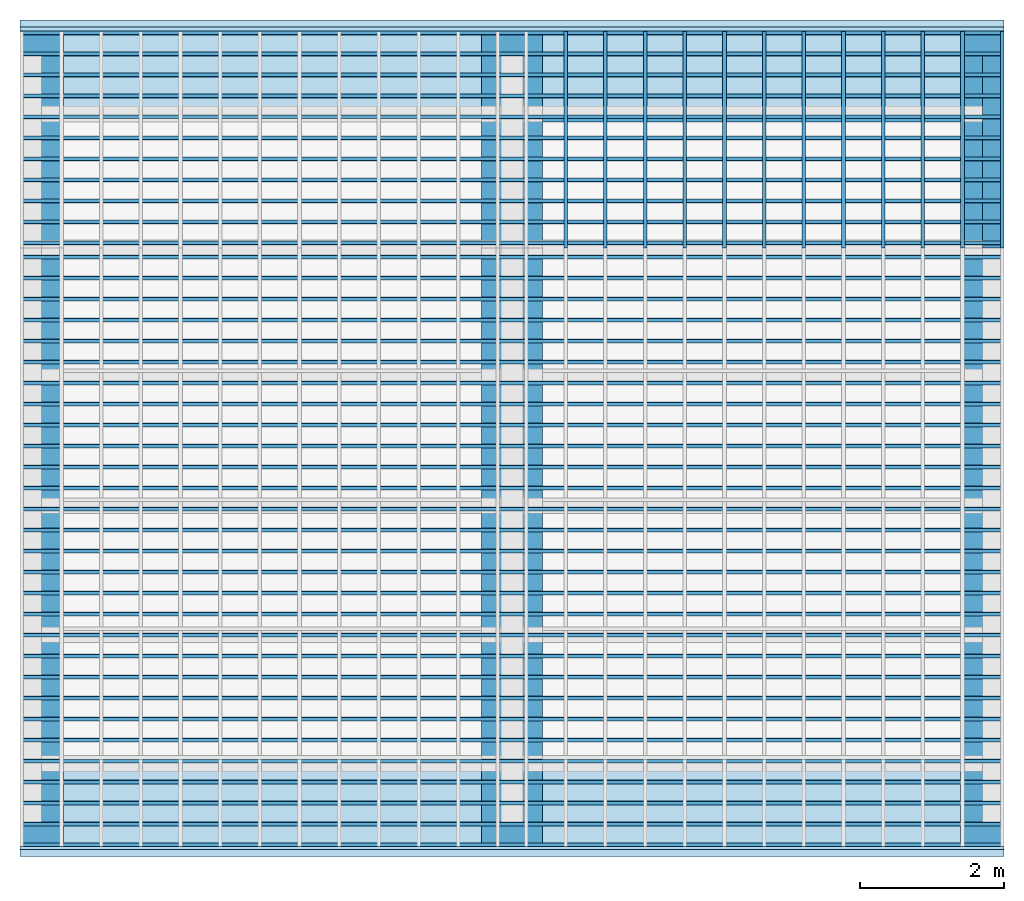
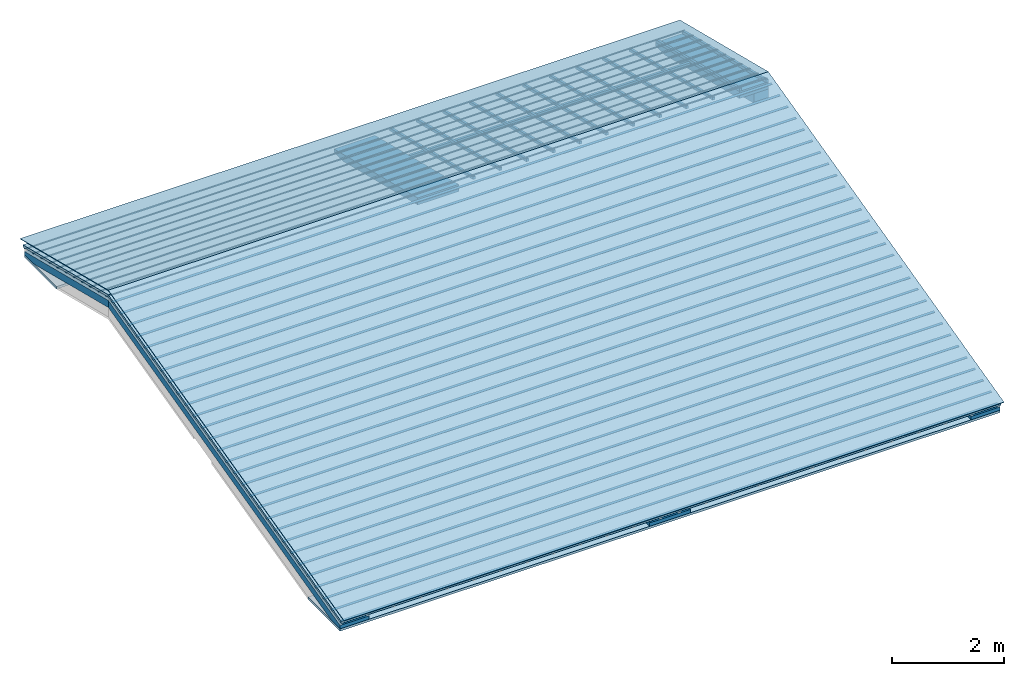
# One storey, part 2 of 3: 60 beams, 4 roofs.
"""IFC2X3 building model written with IfcOpenShell, lengths in millimetres."""

import ifcopenshell
import ifcopenshell.guid

model = None  # the IFC model being written
_history = None  # IfcOwnerHistory: only IFC2X3 demands one
_inside = {}  # id of a spatial element -> (the spatial element, [elements in it])
_under = {}  # id of a project, library or spatial element -> (it, [spatial elements below it])
_declared = {}  # id of a project -> (the project, [libraries it declares])
_typed = {}  # id of a type object -> (the type object, [elements of that type])
_made_of = {}  # id of a material, layer set ... -> (it, [elements and type objects made of it])


def new_model(schema):
    """Start an empty IFC model of exactly this schema.

    Asked for "IFC4X3", IfcOpenShell would pick the latest addendum, in which some entities
    have other attributes; the version numbers below select the first issue.
    IFC2X3 requires an IfcOwnerHistory on every rooted entity: one is made here for all.
    """
    global model, _history
    if schema == "IFC4X3":
        model = ifcopenshell.file(schema_version=(4, 3, 0, 0))
    else:
        model = ifcopenshell.file(schema=schema)
    _inside.clear()
    _under.clear()
    _declared.clear()
    _typed.clear()
    _made_of.clear()
    _history = None
    if model.schema == "IFC2X3":
        org = make("IfcOrganization", Name="unknown")
        user = make(
            "IfcPersonAndOrganization",
            ThePerson=make("IfcPerson", FamilyName="unknown"),
            TheOrganization=org,
        )
        app = make(
            "IfcApplication",
            ApplicationDeveloper=org,
            Version="unknown",
            ApplicationFullName="unknown",
            ApplicationIdentifier="unknown",
        )
        _history = make(
            "IfcOwnerHistory",
            OwningUser=user,
            OwningApplication=app,
            ChangeAction="ADDED",
            CreationDate=0,
        )
    return model


def make(cls, **values):
    """One entity of the class cls with the attributes given. An attribute that is None is left unset."""
    return model.create_entity(
        cls, **{name: value for name, value in values.items() if value is not None}
    )


def entity(cls, *values):
    """Any entity or typed value of the class cls, its attributes in the order of the schema. None: left unset."""
    e = model.create_entity(cls)
    for i, value in enumerate(values):
        if value is not None:
            e[i] = value
    return e


def rooted(cls, **values):
    """An entity with a GlobalId (a new one), such as an element, a storey or a relation."""
    return make(cls, GlobalId=ifcopenshell.guid.new(), OwnerHistory=_history, **values)


def si_unit(unit_type, name, prefix=None):
    """IfcSIUnit, for example si_unit("LENGTHUNIT", "METRE", prefix="MILLI")."""
    return make("IfcSIUnit", UnitType=unit_type, Prefix=prefix, Name=name)


def converted_unit(unit_type, name, factor, base, dimensions=None, offset=None):
    """IfcConversionBasedUnit, such as the inch: factor (a typed value) times the base unit."""
    return make(
        "IfcConversionBasedUnit"
        if offset is None
        else "IfcConversionBasedUnitWithOffset",
        ConversionOffset=offset,
        Dimensions=None
        if dimensions is None
        else entity("IfcDimensionalExponents", *dimensions),
        UnitType=unit_type,
        Name=name,
        ConversionFactor=make(
            "IfcMeasureWithUnit", ValueComponent=factor, UnitComponent=base
        ),
    )


def derived_unit(unit_type, elements):
    """IfcDerivedUnit: a product of units, each with its exponent."""
    return make(
        "IfcDerivedUnit",
        Elements=[
            make("IfcDerivedUnitElement", Unit=unit, Exponent=power)
            for unit, power in elements
        ],
        UnitType=unit_type,
    )


def money_unit(currency):
    """IfcMonetaryUnit."""
    return make("IfcMonetaryUnit", Currency=currency)


def assignment(units):
    """IfcUnitAssignment: the units of a project."""
    return None if units is None else make("IfcUnitAssignment", Units=units)


def point(xyz):
    """IfcCartesianPoint."""
    return None if xyz is None else make("IfcCartesianPoint", Coordinates=xyz)


def direction(xyz):
    """IfcDirection."""
    return None if xyz is None else make("IfcDirection", DirectionRatios=xyz)


def frame(location, z_axis=None, x_axis=None):
    """IfcAxis2Placement3D, a coordinate frame: its origin and axes. An axis left out is left unset."""
    return make(
        "IfcAxis2Placement3D",
        Location=point(location),
        Axis=direction(z_axis),
        RefDirection=direction(x_axis),
    )


def frame_2d(location, x_axis=None):
    """IfcAxis2Placement2D, a coordinate frame in the plane: its origin and x axis."""
    return make(
        "IfcAxis2Placement2D", Location=point(location), RefDirection=direction(x_axis)
    )


def origin_with_axes():
    """The frame at (0, 0, 0) with the z axis (0, 0, 1) and the x axis (1, 0, 0) written out."""
    return frame((0.0, 0.0, 0.0), z_axis=(0.0, 0.0, 1.0), x_axis=(1.0, 0.0, 0.0))


def place(relative_to, where):
    """IfcLocalPlacement: puts the frame where relative to a parent placement (None: the world)."""
    return make(
        "IfcLocalPlacement", PlacementRelTo=relative_to, RelativePlacement=where
    )


def context(
    kind, dimensions, precision=None, world=None, true_north=None, identifier=None
):
    """IfcGeometricRepresentationContext, for example the 3D "Model" context."""
    return make(
        "IfcGeometricRepresentationContext",
        ContextIdentifier=identifier,
        ContextType=kind,
        CoordinateSpaceDimension=dimensions,
        Precision=precision,
        WorldCoordinateSystem=world,
        TrueNorth=true_north,
    )


def subcontext(parent, identifier, kind, view, scale=None):
    """IfcGeometricRepresentationSubContext, for example "Body" below "Model"."""
    return make(
        "IfcGeometricRepresentationSubContext",
        ContextIdentifier=identifier,
        ContextType=kind,
        ParentContext=parent,
        TargetScale=scale,
        TargetView=view,
    )


def project(units=None, contexts=None):
    """IfcProject with its units and contexts."""
    return rooted(
        "IfcProject",
        Name="project",
        RepresentationContexts=contexts,
        UnitsInContext=assignment(units),
    )


def spatial(cls, under=None, at=None, **own):
    """A site, building, storey or space (cls), placed at a placement, below another one or the project."""
    s = rooted(cls, ObjectPlacement=at, **own)
    if under is not None:
        _under.setdefault(under.id(), (under, []))[1].append(s)
    return s


def polyline(points):
    """IfcPolyline through the points."""
    return make("IfcPolyline", Points=[point(p) for p in points])


def profile(cls, at=None, kind="AREA", **sizes):
    """A parametric profile (cls). Its sizes go by their IFC names, for example OverallWidth=200.0."""
    return make(cls, ProfileType=kind, Position=at, **sizes)


def rectangle(**sizes):
    """IfcRectangleProfileDef."""
    return profile("IfcRectangleProfileDef", **sizes)


def outline(outer, holes=None, kind="AREA"):
    """IfcArbitraryClosedProfileDef: a profile drawn as a closed curve; with holes, ...WithVoids."""
    if holes is None:
        return make("IfcArbitraryClosedProfileDef", ProfileType=kind, OuterCurve=outer)
    return make(
        "IfcArbitraryProfileDefWithVoids",
        ProfileType=kind,
        OuterCurve=outer,
        InnerCurves=holes,
    )


def extrude(swept, where, along, depth):
    """IfcExtrudedAreaSolid: the profile swept, set in the frame where, extruded along a direction by depth."""
    return make(
        "IfcExtrudedAreaSolid",
        SweptArea=swept,
        Position=where,
        ExtrudedDirection=direction(along),
        Depth=depth,
    )


def boolean(op, a, b):
    """IfcBooleanResult of two solids."""
    return make("IfcBooleanResult", Operator=op, FirstOperand=a, SecondOperand=b)


def clip(a, b, op="DIFFERENCE"):
    """IfcBooleanClippingResult: the solid a cut by the half space b."""
    return make(
        "IfcBooleanClippingResult", Operator=op, FirstOperand=a, SecondOperand=b
    )


def halfspace(plane, agree):
    """IfcHalfSpaceSolid: all space on one side of the plane z = 0 of the frame plane."""
    return make(
        "IfcHalfSpaceSolid",
        BaseSurface=make("IfcPlane", Position=plane),
        AgreementFlag=agree,
    )


def faces_of(points, faces, orient=None, outer=None):
    """IfcFace entities. A face is a list of loops; a loop is a list of indices into points, from 0.

    orient and outer hold one flag for each loop. By default every Orientation is true, the
    first loop of a face is its IfcFaceOuterBound and the others are IfcFaceBound.
    """
    made = []
    for i, loops in enumerate(faces):
        bounds = []
        for j, loop in enumerate(loops):
            is_outer = j == 0 if outer is None else outer[i][j]
            bounds.append(
                make(
                    "IfcFaceOuterBound" if is_outer else "IfcFaceBound",
                    Bound=make("IfcPolyLoop", Polygon=[points[k] for k in loop]),
                    Orientation=True if orient is None else orient[i][j],
                )
            )
        made.append(make("IfcFace", Bounds=bounds))
    return made


def faceted_brep(points, faces, orient=None, outer=None, voids=None):
    """IfcFacetedBrep: a solid bounded by flat faces; with voids (closed shells), ...WithVoids."""
    shared = [point(p) for p in points]
    hull = make("IfcClosedShell", CfsFaces=faces_of(shared, faces, orient, outer))
    if voids is None:
        return make("IfcFacetedBrep", Outer=hull)
    return make(
        "IfcFacetedBrepWithVoids",
        Outer=hull,
        Voids=[
            make(cls, CfsFaces=faces_of(shared, fs, o, b)) for cls, fs, o, b in voids
        ],
    )


def shape(context_of_items, identifier, shape_type, items):
    """IfcShapeRepresentation: the items that make up one representation, for example the "Body"."""
    return make(
        "IfcShapeRepresentation",
        ContextOfItems=context_of_items,
        RepresentationIdentifier=identifier,
        RepresentationType=shape_type,
        Items=items,
    )


def material(Name=None, Category=None):
    """IfcMaterial."""
    return make("IfcMaterial", Name=Name, Category=Category)


def made_of(thing, what):
    """Note that an element or type object is made of a material, layer set ...; save() writes the relation."""
    if what is not None:
        _made_of.setdefault(what.id(), (what, []))[1].append(thing)
    return thing


def type_object(cls, material=None, **own):
    """A type object (cls), such as IfcWallType, which elements share."""
    return made_of(rooted(cls, **own), material)


def element(
    cls,
    number,
    at=None,
    inside=None,
    cuts=None,
    type_object=None,
    material=None,
    context=None,
    identifier="Body",
    shape_type=None,
    held_by="IfcProductDefinitionShape",
    body=None,
    shapes=None,
    **own,
):
    """One element of the class cls, such as IfcWall. Its Tag is "e" and its number.

    at: its placement. inside: the storey or other place that contains it. cuts: it is an
    opening in that element (IfcRelVoidsElement). A single representation is given by context,
    identifier, shape_type and body (its items); several are given by shapes. held_by: the class
    of the entity that holds the representations. save() writes the other relations.
    """
    e = rooted(cls, Tag="e%d" % number, ObjectPlacement=at, **own)
    if body is not None:
        shapes = [shape(context, identifier, shape_type, body)]
    if shapes is not None:
        e.Representation = make(held_by, Representations=shapes)
    if inside is not None:
        _inside.setdefault(inside.id(), (inside, []))[1].append(e)
    if cuts is not None:
        rooted(
            "IfcRelVoidsElement", RelatingBuildingElement=cuts, RelatedOpeningElement=e
        )
    if type_object is not None:
        _typed.setdefault(type_object.id(), (type_object, []))[1].append(e)
    return made_of(e, material)


def aggregate(whole, parts):
    """IfcRelAggregates: a whole, such as a stair, and the parts it consists of."""
    return rooted("IfcRelAggregates", RelatingObject=whole, RelatedObjects=parts)


def save(model, path):
    """Write the relations noted so far, then the file.

    IfcRelAggregates (storeys below a building ...), IfcRelContainedInSpatialStructure (elements
    in a storey), IfcRelDefinesByType, IfcRelAssociatesMaterial and IfcRelDeclares: one each for
    every whole, place, type object, material and project.
    """
    for whole, parts in _under.values():
        aggregate(whole, parts)
    for where, things in _inside.values():
        rooted(
            "IfcRelContainedInSpatialStructure",
            RelatedElements=things,
            RelatingStructure=where,
        )
    for kind, things in _typed.values():
        rooted("IfcRelDefinesByType", RelatedObjects=things, RelatingType=kind)
    for what, things in _made_of.values():
        rooted("IfcRelAssociatesMaterial", RelatedObjects=things, RelatingMaterial=what)
    for by, libraries in _declared.values():
        rooted("IfcRelDeclares", RelatingContext=by, RelatedDefinitions=libraries)
    model.write(path)


model = new_model("IFC2X3")

# Units and contexts
model_context = context("Model", 3, precision=0.01, world=origin_with_axes(), true_north=direction((0.293984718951, 0.955810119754)))
body_context = subcontext(model_context, "Body", "Model", "MODEL_VIEW")
ifc_project = project(units=[si_unit("LENGTHUNIT", "METRE", prefix="MILLI"), si_unit("AREAUNIT", "SQUARE_METRE"), si_unit("VOLUMEUNIT", "CUBIC_METRE"), converted_unit("PLANEANGLEUNIT", "DEGREE", entity("IfcPlaneAngleMeasure", 0.0174532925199), si_unit("PLANEANGLEUNIT", "RADIAN"), dimensions=[0, 0, 0, 0, 0, 0, 0]), si_unit("SOLIDANGLEUNIT", "STERADIAN"), money_unit("USD"), converted_unit("TIMEUNIT", "Year", entity("IfcTimeMeasure", 31556926.0), si_unit("TIMEUNIT", "SECOND"), dimensions=[0, 0, 1, 0, 0, 0, 0]), si_unit("MASSUNIT", "GRAM", prefix="KILO"), si_unit("THERMODYNAMICTEMPERATUREUNIT", "DEGREE_CELSIUS"), si_unit("LUMINOUSINTENSITYUNIT", "LUMEN"), si_unit("ENERGYUNIT", "JOULE", prefix="MEGA"), derived_unit("THERMALCONDUCTANCEUNIT", [(si_unit("POWERUNIT", "WATT"), 1), (si_unit("LENGTHUNIT", "METRE"), -1), (si_unit("THERMODYNAMICTEMPERATUREUNIT", "KELVIN"), -1)]), derived_unit("SPECIFICHEATCAPACITYUNIT", [(si_unit("ENERGYUNIT", "JOULE"), 1), (si_unit("MASSUNIT", "GRAM", prefix="KILO"), -1), (si_unit("THERMODYNAMICTEMPERATUREUNIT", "KELVIN"), -1)]), derived_unit("MASSDENSITYUNIT", [(si_unit("MASSUNIT", "GRAM", prefix="KILO"), 1), (si_unit("VOLUMEUNIT", "CUBIC_METRE"), -1)])], contexts=[model_context])

# Site, building, storey
site_placement = place(None, origin_with_axes())
site = spatial("IfcSite", under=ifc_project, at=site_placement, Name="Local", CompositionType="ELEMENT")
building_placement = place(site_placement, origin_with_axes())
building = spatial("IfcBuilding", under=site, at=building_placement, Name="Construção", CompositionType="ELEMENT")
storey_placement = place(building_placement, frame((0.0, 0.0, 5800.0), z_axis=(0.0, 0.0, 1.0), x_axis=(1.0, 0.0, 0.0)))
storey = spatial("IfcBuildingStorey", under=building, at=storey_placement, Name="Pavimento Cobertura", CompositionType="ELEMENT", Elevation=5800.0)

# Beams
ifc_material_1 = material(Name="Concreto Armado - Estrutural")
beam_type_1 = type_object("IfcBeamType", Name="Concreto Armado - Estrutural 300 x 200", PredefinedType="NOTDEFINED")
beam_1_placement = place(storey_placement, frame((20649.6450715, 10787.3064984, 513.403828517), z_axis=(0.0, 0.0, 1.0), x_axis=(1.0, -4.20530067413e-10, 0.0)))
element("IfcBeam", 1, at=beam_1_placement, inside=storey, type_object=beam_type_1, material=ifc_material_1, Name="V10", context=body_context, shape_type="Clipping", body=[
    clip(clip(extrude(rectangle(XDim=200.0, YDim=300.0, at=frame_2d((100.0, -150.0), x_axis=(1.0, 0.0))), frame((0.0, -68.4258451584, 17.0604793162), z_axis=(0.0, 0.970295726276, -0.2419218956), x_axis=(0.0, 0.2419218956, 0.970295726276)), (0.0, 0.0, 1.0), 3114.15251581), halfspace(frame((0.0, 0.0, 0.0), z_axis=(0.0, 1.0, 0.0), x_axis=(0.0, 0.0, 1.0)), True)), halfspace(frame((0.0, 0.0, -461.880125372), z_axis=(0.0, 0.0, 1.0), x_axis=(0.0, -1.0, 0.0)), True)),
])
beam_type_2 = type_object("IfcBeamType", Name="Concreto Armado - Estrutural 850 x 150", PredefinedType="NOTDEFINED")
beam_2_placement = place(storey_placement, frame((13829.6450728, 10787.3064984, 719.526554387), z_axis=(0.0, 0.0, 1.0), x_axis=(-1.0, 0.0, 0.0)))
element("IfcBeam", 2, at=beam_2_placement, inside=storey, type_object=beam_type_2, material=ifc_material_1, Name="V18", context=body_context, shape_type="CSG", body=[
    boolean("DIFFERENCE", clip(clip(extrude(rectangle(XDim=150.0, YDim=850.0, at=frame_2d((75.0, 0.0), x_axis=(1.0, 0.0))), frame((0.0, -51.3193838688, 12.7953594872), z_axis=(0.0, 0.970295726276, -0.2419218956), x_axis=(0.0, 0.2419218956, 0.970295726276)), (0.0, 0.0, 1.0), 8657.2975022), halfspace(frame((0.0, 0.0, 0.0), z_axis=(0.0, 1.0, 0.0), x_axis=(0.0, 0.0, 1.0)), True)), halfspace(frame((0.0, 8297.49999975, 0.0), z_axis=(0.0, -1.0, 0.0), x_axis=(0.0, 0.0, -1.0)), True)), faceted_brep([(425.0, 7974.21312759, -1988.19463335), (-425.0, 7974.21312759, -1988.19463335), (-425.0, 8297.49999975, -2068.79910353), (425.0, 8297.49999975, -2068.79910353), (-425.0, 8297.49999974, -1988.19463335), (425.0, 8297.49999975, -1988.19463335)], [[[0, 1, 2, 3]], [[4, 1, 0, 5]], [[1, 4, 2]], [[4, 5, 3, 2]], [[5, 0, 3]]])),
])
beam_3_placement = place(storey_placement, frame((13829.6450728, 10787.3064984, 719.526554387), z_axis=(0.0, 0.0, 1.0), x_axis=(1.0, 0.0, 0.0)))
element("IfcBeam", 3, at=beam_3_placement, inside=storey, type_object=beam_type_2, material=ifc_material_1, Name="V17", context=body_context, shape_type="CSG", body=[
    boolean("DIFFERENCE", clip(clip(extrude(rectangle(XDim=150.0, YDim=850.0, at=frame_2d((75.0, 0.0), x_axis=(1.0, 0.0))), frame((0.0, -51.3193838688, 12.7953594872), z_axis=(0.0, 0.970295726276, -0.2419218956), x_axis=(0.0, 0.2419218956, 0.970295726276)), (0.0, 0.0, 1.0), 3200.19833549), halfspace(frame((0.0, 0.0, 0.0), z_axis=(0.0, 1.0, 0.0), x_axis=(0.0, 0.0, 1.0)), True)), halfspace(frame((0.0, 3002.50000042, 0.0), z_axis=(0.0, -1.0, 0.0), x_axis=(0.0, 0.0, -1.0)), True)), faceted_brep([(-425.0, 3002.50000044, -668.00285293), (425.0, 3002.50000041, -668.00285293), (425.0, 3002.50000042, -748.607328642), (-425.0, 3002.50000042, -748.607328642), (425.0, 2679.21310608, -668.00285293), (-425.0, 2679.21310608, -668.00285293)], [[[0, 1, 2, 3]], [[4, 1, 0, 5]], [[1, 4, 2]], [[4, 5, 3, 2]], [[5, 0, 3]]])),
])
beam_type_3 = type_object("IfcBeamType", Name="Concreto Armado - Estrutural 600 x 150", PredefinedType="NOTDEFINED")
beam_4_placement = place(storey_placement, frame((20649.6450715, 10787.3064984, 719.526554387), z_axis=(0.0, 0.0, 1.0), x_axis=(1.0, -2.59461099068e-10, 0.0)))
element("IfcBeam", 4, at=beam_4_placement, inside=storey, type_object=beam_type_3, material=ifc_material_1, Name="V19", context=body_context, shape_type="CSG", body=[
    boolean("DIFFERENCE", clip(clip(extrude(rectangle(XDim=150.0, YDim=600.0, at=frame_2d((75.0, -300.0), x_axis=(1.0, 0.0))), frame((0.0, -51.3193838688, 12.7953594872), z_axis=(0.0, 0.970295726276, -0.2419218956), x_axis=(0.0, 0.2419218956, 0.970295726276)), (0.0, 0.0, 1.0), 3200.19833549), halfspace(frame((0.0, 0.0, 0.0), z_axis=(0.0, 1.0, 0.0), x_axis=(0.0, 0.0, 1.0)), True)), halfspace(frame((0.0, 3002.50000042, 0.0), z_axis=(0.0, -1.0, 0.0), x_axis=(0.0, 0.0, -1.0)), True)), faceted_brep([(-600.0, 3002.50000027, -668.00285293), (0.0, 3002.50000042, -668.00285293), (0.0, 3002.50000042, -748.607328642), (-600.0, 3002.50000042, -748.607328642), (8.38795699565e-08, 2679.21310608, -668.00285293), (-600.0, 2679.21310608, -668.00285293)], [[[0, 1, 2, 3]], [[4, 1, 0, 5]], [[1, 4, 2]], [[4, 5, 3, 2]], [[5, 0, 3]]])),
])
beam_5_placement = place(storey_placement, frame((20649.6450715, 10787.3064984, 719.526554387), z_axis=(0.0, 0.0, 1.0), x_axis=(-1.0, -1.38389062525e-10, 0.0)))
element("IfcBeam", 5, at=beam_5_placement, inside=storey, type_object=beam_type_3, material=ifc_material_1, Name="V21", context=body_context, shape_type="CSG", body=[
    boolean("DIFFERENCE", clip(clip(extrude(rectangle(XDim=150.0, YDim=600.0, at=frame_2d((75.0, 300.0), x_axis=(1.0, 0.0))), frame((0.0, -51.3193838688, 12.7953594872), z_axis=(0.0, 0.970295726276, -0.2419218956), x_axis=(0.0, 0.2419218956, 0.970295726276)), (0.0, 0.0, 1.0), 8657.2975022), halfspace(frame((0.0, 0.0, 0.0), z_axis=(0.0, 1.0, 0.0), x_axis=(0.0, 0.0, 1.0)), True)), halfspace(frame((0.0, 8297.49999975, 0.0), z_axis=(0.0, -1.0, 0.0), x_axis=(0.0, 0.0, -1.0)), True)), faceted_brep([(600.0, 7974.21312759, -1988.19463335), (-4.47357706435e-08, 7974.21312759, -1988.19463335), (0.0, 8297.49999975, -2068.79910353), (600.0, 8297.49999975, -2068.79910353), (0.0, 8297.49999975, -1988.19463335), (600.0, 8297.49999966, -1988.19463335)], [[[0, 1, 2, 3]], [[4, 1, 0, 5]], [[1, 4, 2]], [[4, 5, 3, 2]], [[5, 0, 3]]])),
])
beam_6_placement = place(storey_placement, frame((7009.64507382, 10787.3064984, 719.526554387), z_axis=(0.0, 0.0, 1.0), x_axis=(-1.0, 1.383887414e-10, 0.0)))
element("IfcBeam", 6, at=beam_6_placement, inside=storey, type_object=beam_type_3, material=ifc_material_1, Name="V21", context=body_context, shape_type="CSG", body=[
    boolean("DIFFERENCE", clip(clip(extrude(rectangle(XDim=150.0, YDim=600.0, at=frame_2d((75.0, -300.0), x_axis=(1.0, 0.0))), frame((0.0, -51.3193838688, 12.7953594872), z_axis=(0.0, 0.970295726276, -0.2419218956), x_axis=(0.0, 0.2419218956, 0.970295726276)), (0.0, 0.0, 1.0), 8657.2975022), halfspace(frame((0.0, 0.0, 0.0), z_axis=(0.0, 1.0, 0.0), x_axis=(0.0, 0.0, 1.0)), True)), halfspace(frame((0.0, 8297.49999975, 0.0), z_axis=(0.0, -1.0, 0.0), x_axis=(0.0, 0.0, -1.0)), True)), faceted_brep([(4.47384351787e-08, 7974.21312759, -1988.19463335), (-600.0, 7974.21312759, -1988.19463335), (-600.0, 8297.49999975, -2068.79910353), (0.0, 8297.49999975, -2068.79910353), (-600.0, 8297.49999966, -1988.19463335), (0.0, 8297.49999975, -1988.19463335)], [[[0, 1, 2, 3]], [[4, 1, 0, 5]], [[1, 4, 2]], [[4, 5, 3, 2]], [[5, 0, 3]]])),
])
beam_7_placement = place(storey_placement, frame((7009.64507382, 10787.3064984, 719.526554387), z_axis=(0.0, 0.0, 1.0), x_axis=(1.0, 7.03939007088e-10, 0.0)))
element("IfcBeam", 7, at=beam_7_placement, inside=storey, type_object=beam_type_3, material=ifc_material_1, Name="V19", context=body_context, shape_type="CSG", body=[
    boolean("DIFFERENCE", clip(clip(extrude(rectangle(XDim=150.0, YDim=600.0, at=frame_2d((75.0, 300.0), x_axis=(1.0, 0.0))), frame((0.0, -51.3193838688, 12.7953594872), z_axis=(0.0, 0.970295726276, -0.2419218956), x_axis=(0.0, 0.2419218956, 0.970295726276)), (0.0, 0.0, 1.0), 3200.19833549), halfspace(frame((0.0, 0.0, 0.0), z_axis=(0.0, 1.0, 0.0), x_axis=(0.0, 0.0, 1.0)), True)), halfspace(frame((0.0, 3002.50000042, 0.0), z_axis=(0.0, -1.0, 0.0), x_axis=(0.0, 0.0, -1.0)), True)), faceted_brep([(0.0, 3002.50000042, -668.00285293), (600.0, 3002.5, -668.00285293), (600.0, 3002.50000042, -748.607328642), (0.0, 3002.50000042, -748.607328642), (600.0, 2679.21310608, -668.00285293), (-2.27574403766e-07, 2679.21310608, -668.00285293)], [[[0, 1, 2, 3]], [[4, 1, 0, 5]], [[1, 4, 2]], [[4, 5, 3, 2]], [[5, 0, 3]]])),
])
ifc_material_2 = material(Name="Madeiramento - Cobertura")
beam_type_4 = type_object("IfcBeamType", Name="Madeiramento - Cobertura 50 x 60", PredefinedType="NOTDEFINED")
beam_8_placement = place(storey_placement, frame((20049.645072, 12535.6308554, 383.360217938), z_axis=(0.0, 0.0, 1.0), x_axis=(0.0, 1.0, 0.0)))
element("IfcBeam", 8, at=beam_8_placement, inside=storey, type_object=beam_type_4, material=ifc_material_2, Name="Caibro", context=body_context, shape_type="SweptSolid", body=[
    extrude(rectangle(XDim=60.0, YDim=50.0, at=frame_2d((30.0, 25.0), x_axis=(1.0, 0.0))), frame((0.0, 0.0, 0.0), z_axis=(0.0, 1.0, 0.0), x_axis=(0.0, 0.0, 1.0)), (0.0, 0.0, 1.0), 5794.99999926),
])
for number, where, z_axis, x_axis, name in (
    (9, (20649.6450715, 10787.3064984, 874.118598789), (0.0, 0.0, 1.0), (1.0, -2.59461099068e-10, 0.0), "Caibro"),
    (10, (20099.6450715, 10787.3064984, 874.118598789), (0.0, 0.0, 1.0), (1.0, -2.59461099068e-10, 0.0), "Caibro"),
    (11, (19549.6450715, 10787.3064984, 874.118598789), (0.0, 0.0, 1.0), (1.0, -2.59461099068e-10, 0.0), "Caibro"),
    (12, (18999.6450715, 10787.3064984, 874.118598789), (0.0, 0.0, 1.0), (1.0, -2.59461099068e-10, 0.0), "Caibro"),
    (13, (18449.6450715, 10787.3064984, 874.118598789), (0.0, 0.0, 1.0), (1.0, -2.59461099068e-10, 0.0), "Caibro"),
    (14, (17899.6450715, 10787.3064984, 874.118598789), (0.0, 0.0, 1.0), (1.0, -2.59461099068e-10, 0.0), "Caibro"),
    (15, (17349.6450715, 10787.3064984, 874.118598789), (0.0, 0.0, 1.0), (1.0, -2.59461099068e-10, 0.0), "Caibro"),
    (16, (16799.6450715, 10787.3064984, 874.118598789), (0.0, 0.0, 1.0), (1.0, -2.59461099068e-10, 0.0), "Caibro"),
    (17, (16249.6450715, 10787.3064984, 874.118598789), (0.0, 0.0, 1.0), (1.0, -2.59461099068e-10, 0.0), "Caibro"),
    (18, (15699.6450715, 10787.3064984, 874.118598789), (0.0, 0.0, 1.0), (1.0, -2.59461099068e-10, 0.0), "Caibro"),
    (19, (15149.6450715, 10787.3064984, 874.118598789), (0.0, 0.0, 1.0), (1.0, -2.59461099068e-10, 0.0), "Caibro"),
    (20, (14599.6450715, 10787.3064984, 874.118598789), (0.0, 0.0, 1.0), (1.0, -2.59461099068e-10, 0.0), "Caibro"),
):
    element("IfcBeam", number, at=place(storey_placement, frame(where, z_axis=z_axis, x_axis=x_axis)), inside=storey, type_object=beam_type_4, material=ifc_material_2, Name=name, context=body_context, shape_type="Clipping", body=[
        clip(clip(extrude(rectangle(XDim=60.0, YDim=50.0, at=frame_2d((30.0, -25.0), x_axis=(1.0, 0.0))), frame((0.0, -20.5277535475, 5.11814379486), z_axis=(0.0, 0.970295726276, -0.2419218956), x_axis=(0.0, 0.2419218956, 0.970295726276)), (0.0, 0.0, 1.0), 3136.72978773), halfspace(frame((0.0, 0.0, 0.0), z_axis=(0.0, 1.0, 0.0), x_axis=(0.0, 0.0, 1.0)), True)), halfspace(frame((0.0, 3002.50000042, 0.0), z_axis=(0.0, -1.0, 0.0), x_axis=(0.0, 0.0, -1.0)), True)),
    ])
beam_type_5 = type_object("IfcBeamType", Name="Madeiramento - Cobertura 50 x 10", PredefinedType="NOTDEFINED")
beam_9_placement = place(storey_placement, frame((20649.6450727, 2489.80649861, -1122.53755068), z_axis=(0.0, 0.0, 1.0), x_axis=(0.0, 1.0, 0.0)))
element("IfcBeam", 21, at=beam_9_placement, inside=storey, type_object=beam_type_5, material=ifc_material_2, Name="Ripa", context=body_context, shape_type="Brep", body=[
    faceted_brep([(2.419218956, 3.01980662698e-10, -9.70295726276), (2.419218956, 13640.0, -9.70295726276), (50.9340052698, 13590.0, 2.39313751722), (50.9340052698, 50.0000000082, 2.39313751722), (0.0, 3.01980662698e-10, 0.0), (0.0, 13640.0, 0.0), (48.5147863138, 13590.0, 12.09609478), (48.5147863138, 50.0000000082, 12.09609478)], [[[0, 1, 2, 3]], [[4, 5, 1, 0]], [[2, 1, 5, 6]], [[3, 2, 6, 7]], [[4, 0, 3, 7]], [[7, 6, 5, 4]]]),
])
for number, where, z_axis, x_axis in (
    (22, (20649.6450727, 2780.8952165, -1059.960982), (0.0, 0.0, 1.0), (0.0, 1.0, 0.0)),
    (23, (20649.6450727, 3071.98393438, -987.384413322), (0.0, 0.0, 1.0), (0.0, 1.0, 0.0)),
    (24, (20649.6450727, 3363.07265226, -914.807844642), (0.0, 0.0, 1.0), (0.0, 1.0, 0.0)),
    (25, (20649.6450727, 3654.16137014, -842.231275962), (0.0, 0.0, 1.0), (0.0, 1.0, 0.0)),
    (26, (20649.6450727, 3945.25008803, -769.654707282), (0.0, 0.0, 1.0), (0.0, 1.0, 0.0)),
    (27, (20649.6450727, 4236.33880591, -697.078138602), (0.0, 0.0, 1.0), (0.0, 1.0, 0.0)),
    (28, (20649.6450727, 4527.42752379, -624.501569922), (0.0, 0.0, 1.0), (0.0, 1.0, 0.0)),
    (29, (20649.6450727, 4818.51624168, -551.925001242), (0.0, 0.0, 1.0), (0.0, 1.0, 0.0)),
    (30, (20649.6450727, 5109.60495956, -479.348432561), (0.0, 0.0, 1.0), (0.0, 1.0, 0.0)),
    (31, (20649.6450727, 5400.69367744, -406.771863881), (0.0, 0.0, 1.0), (0.0, 1.0, 0.0)),
    (32, (20649.6450727, 5691.78239532, -334.195295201), (0.0, 0.0, 1.0), (0.0, 1.0, 0.0)),
    (33, (20649.6450727, 5982.87111321, -261.618726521), (0.0, 0.0, 1.0), (0.0, 1.0, 0.0)),
    (34, (20649.6450727, 6273.95983109, -189.042157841), (0.0, 0.0, 1.0), (0.0, 1.0, 0.0)),
    (35, (20649.6450727, 6565.04854897, -116.465589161), (0.0, 0.0, 1.0), (0.0, 1.0, 0.0)),
    (36, (20649.6450727, 6856.13726686, -43.8890204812), (0.0, 0.0, 1.0), (0.0, 1.0, 0.0)),
    (37, (20649.6450727, 7147.22598474, 28.6875481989), (0.0, 0.0, 1.0), (0.0, 1.0, 0.0)),
    (38, (20649.6450727, 7438.31470262, 101.264116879), (0.0, 0.0, 1.0), (0.0, 1.0, 0.0)),
    (39, (20649.6450727, 7729.4034205, 173.840685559), (0.0, 0.0, 1.0), (0.0, 1.0, 0.0)),
    (40, (20649.6450727, 8020.49213839, 246.417254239), (0.0, 0.0, 1.0), (0.0, 1.0, 0.0)),
    (41, (20649.6450727, 8311.58085627, 318.993822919), (0.0, 0.0, 1.0), (0.0, 1.0, 0.0)),
    (42, (20649.6450727, 8602.66957415, 391.570391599), (0.0, 0.0, 1.0), (0.0, 1.0, 0.0)),
    (43, (20649.6450727, 8893.75829203, 464.146960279), (0.0, 0.0, 1.0), (0.0, 1.0, 0.0)),
    (44, (20649.6450727, 9184.84700992, 536.723528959), (0.0, 0.0, 1.0), (0.0, 1.0, 0.0)),
    (45, (20649.6450727, 9475.9357278, 609.300097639), (0.0, 0.0, 1.0), (0.0, 1.0, 0.0)),
    (46, (20649.6450727, 9767.02444568, 681.876666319), (0.0, 0.0, 1.0), (0.0, 1.0, 0.0)),
    (47, (20649.6450727, 10058.1131636, 754.453234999), (0.0, 0.0, 1.0), (0.0, 1.0, 0.0)),
    (48, (20649.6450727, 10349.2018814, 827.029803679), (0.0, 0.0, 1.0), (0.0, 1.0, 0.0)),
    (49, (20649.6450727, 10640.2905993, 899.60637236), (0.0, 0.0, 1.0), (0.0, 1.0, 0.0)),
):
    element("IfcBeam", number, at=place(storey_placement, frame(where, z_axis=z_axis, x_axis=x_axis)), inside=storey, type_object=beam_type_5, material=ifc_material_2, Name="Ripa", context=body_context, shape_type="Brep", body=[
        faceted_brep([(0.0, 0.0, 0.0), (0.0, 13640.0, 0.0), (48.5147863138, 13640.0, 12.09609478), (48.5147863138, 0.0, 12.09609478), (-2.419218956, 0.0, 9.70295726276), (-2.419218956, 13640.0, 9.70295726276), (46.0955673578, 13640.0, 21.7990520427), (46.0955673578, 0.0, 21.7990520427)], [[[0, 1, 2, 3]], [[4, 5, 1, 0]], [[2, 1, 5, 6]], [[3, 2, 6, 7]], [[4, 0, 3, 7]], [[7, 6, 5, 4]]]),
    ])
beam_10_placement = place(storey_placement, frame((20649.6450723, 13789.8064988, 187.348087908), z_axis=(0.0, 0.0, 1.0), x_axis=(0.0, 1.0, 0.0)))
element("IfcBeam", 50, at=beam_10_placement, inside=storey, type_object=beam_type_5, material=ifc_material_2, Name="Ripa", context=body_context, shape_type="Brep", body=[
    faceted_brep([(-48.5147863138, 50.0000000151, 12.09609478), (-48.5147863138, 13589.9999992, 12.09609478), (0.0, 13639.9999993, 0.0), (0.0, 0.0, 0.0), (-46.0955673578, 50.0000000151, 21.7990520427), (-46.0955673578, 13589.9999992, 21.7990520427), (2.419218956, 13639.9999993, 9.70295726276), (2.419218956, 0.0, 9.70295726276)], [[[0, 1, 2, 3]], [[4, 5, 1, 0]], [[2, 1, 5, 6]], [[3, 2, 6, 7]], [[4, 0, 3, 7]], [[7, 6, 5, 4]]]),
])
for number, where, z_axis, x_axis in (
    (51, (20649.6450723, 13498.7177809, 259.924656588), (0.0, 0.0, 1.0), (0.0, 1.0, 0.0)),
    (52, (20649.6450723, 13207.629063, 332.501225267), (0.0, 0.0, 1.0), (0.0, 1.0, 0.0)),
    (53, (20649.6450723, 12916.5403451, 405.077793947), (0.0, 0.0, 1.0), (0.0, 1.0, 0.0)),
    (54, (20649.6450723, 12625.4516273, 477.654362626), (0.0, 0.0, 1.0), (0.0, 1.0, 0.0)),
    (55, (20649.6450723, 12334.3629094, 550.230931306), (0.0, 0.0, 1.0), (0.0, 1.0, 0.0)),
    (56, (20649.6450723, 12043.2741915, 622.807499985), (0.0, 0.0, 1.0), (0.0, 1.0, 0.0)),
    (57, (20649.6450723, 11752.1854736, 695.384068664), (0.0, 0.0, 1.0), (0.0, 1.0, 0.0)),
    (58, (20649.6450723, 11461.0967557, 767.960637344), (0.0, 0.0, 1.0), (0.0, 1.0, 0.0)),
    (59, (20649.6450723, 11170.0080378, 840.537206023), (0.0, 0.0, 1.0), (0.0, 1.0, 0.0)),
    (60, (20649.6450723, 10878.91932, 913.113774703), (0.0, 0.0, 1.0), (0.0, 1.0, 0.0)),
):
    element("IfcBeam", number, at=place(storey_placement, frame(where, z_axis=z_axis, x_axis=x_axis)), inside=storey, type_object=beam_type_5, material=ifc_material_2, Name="Ripa", context=body_context, shape_type="Brep", body=[
        faceted_brep([(-48.5147863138, 13640.0, 12.09609478), (0.0, 13640.0, 0.0), (0.0, 0.0, 0.0), (-48.5147863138, 0.0, 12.09609478), (-46.0955673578, 13640.0, 21.7990520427), (2.419218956, 13640.0, 9.70295726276), (2.419218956, 0.0, 9.70295726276), (-46.0955673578, 0.0, 21.7990520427)], [[[0, 1, 2, 3]], [[0, 4, 5, 1]], [[1, 5, 6, 2]], [[3, 2, 6, 7]], [[4, 0, 3, 7]], [[5, 4, 7, 6]]]),
    ])

# Roofs
ifc_material_3 = material(Name="GENÉRICO - COBERTURA")
roof_1_placement = place(storey_placement, frame((13829.6450727, 8149.17577284, 299.868886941), z_axis=(0.0, 0.0, 1.0), x_axis=(1.0, 0.0, 0.0)))
element("IfcRoof", 61, at=roof_1_placement, inside=storey, material=ifc_material_3, Name="Esboço", ShapeType="NOTDEFINED", context=body_context, shape_type="Brep", body=[
    faceted_brep([(-6820.0, 2638.13072521, 798.285560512), (6820.0, 2638.13072521, 798.285560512), (6820.0, 5798.54357496, 10.3061364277), (-6820.0, 5798.54357496, 10.3061364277), (-6820.0, -5798.54357496, -1305.21359339), (6820.0, -5798.54357496, -1305.21359339), (6820.0, 2638.1307252, 787.979424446), (6820.0, 5798.54357496, 2.33234764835e-07), (6820.0, -5798.54357496, -1315.51972949), (-6820.0, 5798.54357496, 2.33234764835e-07), (-6820.0, 2638.1307252, 787.979424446), (-6820.0, -5798.54357496, -1315.51972949)], [[[0, 1, 2, 3]], [[4, 5, 1, 0]], [[6, 7, 2, 1, 5, 8]], [[3, 2, 7, 9]], [[4, 0, 3, 9, 10, 11]], [[11, 8, 5, 4]], [[9, 7, 6, 10]], [[10, 6, 8, 11]]]),
])
roof_2_placement = place(storey_placement, frame((7009.6450717, 12639.8064988, -0.00697828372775), z_axis=(0.0, 0.0, 1.0), x_axis=(1.0, 0.0, 0.0)))
element("IfcRoof", 62, at=roof_2_placement, inside=storey, material=ifc_material_1, Name="Laje de cobertura", ShapeType="NOTDEFINED", context=body_context, shape_type="SweptSolid", body=[
    extrude(outline(polyline([(13640.0000006, 0.0), (13640.0000006, 1150.0), (0.0, 1150.0), (0.0, 0.0), (13640.0000006, 0.0)])), origin_with_axes(), (0.0, 0.0, 1.0), 51.5306788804),
])
roof_3_placement = place(storey_placement, frame((7009.64507267, 3639.80649861, -1320.19875302), z_axis=(0.0, 0.0, 1.0), x_axis=(1.0, 0.0, 0.0)))
element("IfcRoof", 63, at=roof_3_placement, inside=storey, material=ifc_material_1, Name="Laje de cobertura", ShapeType="NOTDEFINED", context=body_context, shape_type="SweptSolid", body=[
    extrude(outline(polyline([(13640.0, 0.0), (0.0, 0.0), (0.0, -1150.0), (13640.0, -1150.0), (13640.0, 0.0)])), origin_with_axes(), (0.0, 0.0, 1.0), 51.5306704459),
])
ifc_material_4 = material(Name="Telha - Cobertura")
roof_4_placement = place(storey_placement, frame((13829.6450727, 8149.17577356, 183.214928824), z_axis=(0.0, 0.0, 1.0), x_axis=(1.0, 0.0, 0.0)))
element("IfcRoof", 64, at=roof_4_placement, inside=storey, material=ifc_material_4, Name="Telhado", ShapeType="NOTDEFINED", context=body_context, shape_type="Brep", body=[
    faceted_brep([(-6820.0, 5698.54357496, 51.5306814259), (-6820.00000078, 2638.13072511, 814.577305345), (6819.99999982, 2638.13072511, 814.577305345), (6820.0, 5698.54357496, 51.5306814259), (-6820.00000039, 5698.54357459, 2.42497577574e-07), (-6820.00000117, 2638.13072536, 763.046624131), (6820.0, -5698.54357496, -1263.98904825), (-6820.0, -5698.54357496, -1263.98904825), (6819.99999943, 2638.13072536, 763.046624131), (6820.00000021, 5698.54357459, 2.42497577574e-07), (-6820.00000024, -5698.5435748, -1315.51972948), (6820.00000036, -5698.5435748, -1315.51972948)], [[[0, 1, 2, 3]], [[4, 5, 1, 0]], [[6, 2, 1, 7]], [[3, 2, 8, 9]], [[9, 4, 0, 3]], [[9, 8, 5, 4]], [[7, 1, 5, 10]], [[11, 8, 2, 6]], [[10, 11, 6, 7]], [[10, 5, 8, 11]]]),
])

save(model, "model.ifc")
